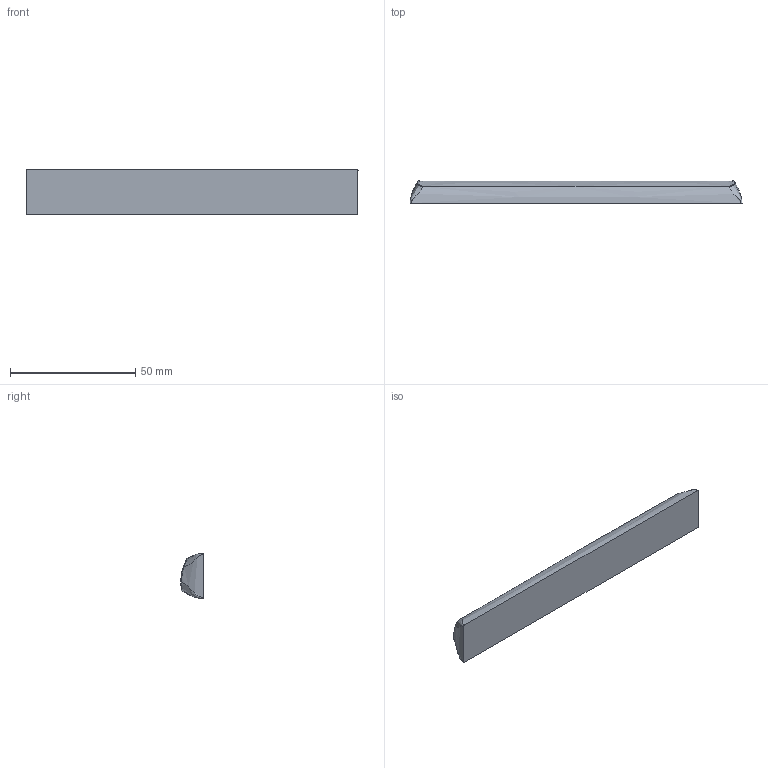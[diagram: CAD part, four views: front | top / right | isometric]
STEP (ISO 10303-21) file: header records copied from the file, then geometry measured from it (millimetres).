
FILE_DESCRIPTION (( 'STEP AP203' ), '1' );
FILE_NAME ('R4_Spacebar_7U_v3.2_GMK.STEP', '2023-03-07T11:09:44', ( '' ), ( '' ), 'SwSTEP 2.0', 'SolidWorks 2022', '' );
FILE_SCHEMA (( 'CONFIG_CONTROL_DESIGN' ));
Length unit declared in the file: millimetre
Products named in the file (1): R4_Spacebar_7U_v3.2_GMK
Bounding box: 132.5 x 8.92 x 18.2 mm (x, y, z)
Volume: 17342.8 mm3; surface area: 6451.1 mm2
Topology: 1 solids, 1 shells, 18 faces, 40 edges, 24 vertices
Faces by surface type: bspline 17, plane 1
Entity records: 3092 total; most frequent: CARTESIAN_POINT 2761, ORIENTED_EDGE 80, EDGE_CURVE 40, B_SPLINE_CURVE_WITH_KNOTS 28, VERTEX_POINT 24, ADVANCED_FACE 18, EDGE_LOOP 18, FACE_OUTER_BOUND 18
